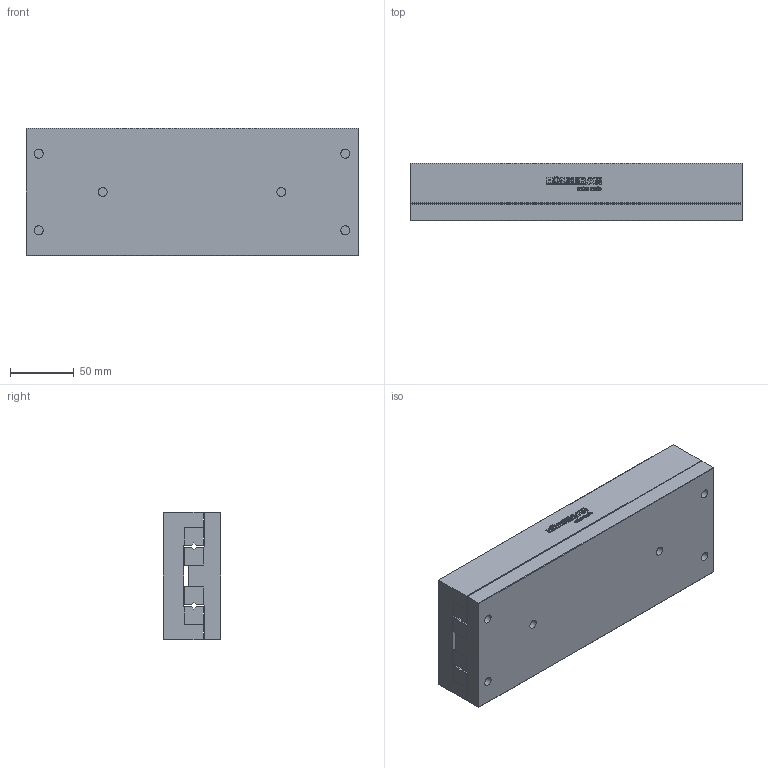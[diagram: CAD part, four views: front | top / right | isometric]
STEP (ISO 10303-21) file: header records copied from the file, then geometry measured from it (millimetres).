
FILE_DESCRIPTION(/* description */ ('STEP AP214'),/* implementation_level */ '2;1');
FILE_NAME(/* name */ 'NK 6-260-B(0)',/* time_stamp */ '2025-04-22T17:50:47+02:00',/* author */ ('License CC BY-ND 4.0'),/* organization */ ('CADENAS'),/* preprocessor_version */ 'ST-DEVELOPER v19.3',/* originating_system */ 'PARTsolutions',/* authorisation */ ' ');
FILE_SCHEMA (('AUTOMOTIVE_DESIGN {1 0 10303 214 3 1 1}'));
Length unit declared in the file: millimetre
Products named in the file (3): NK 6-260-B(0); NK 6-260-B_1; NK 6-260-B_2
Assembly tree (2 placements, depth 2):
  NK 6-260-B(0)
    NK 6-260-B_1
    NK 6-260-B_2
Bounding box: 260 x 45 x 100 mm (x, y, z)
Volume: 1119328.9 mm3; surface area: 186868.2 mm2
Topology: 2 solids, 2 shells, 607 faces, 1684 edges, 1108 vertices
Faces by surface type: cylinder 312, plane 279, cone 16
Full cylindrical faces by diameter (mm): 4.917 x8, 7 x6, 11 x6
Entity records: 19445 total; most frequent: DIRECTION 3508, CARTESIAN_POINT 3350, ORIENTED_EDGE 3280, EDGE_CURVE 1640, AXIS2_PLACEMENT_3D 1258, VERTEX_POINT 1100, LINE 992, VECTOR 992
